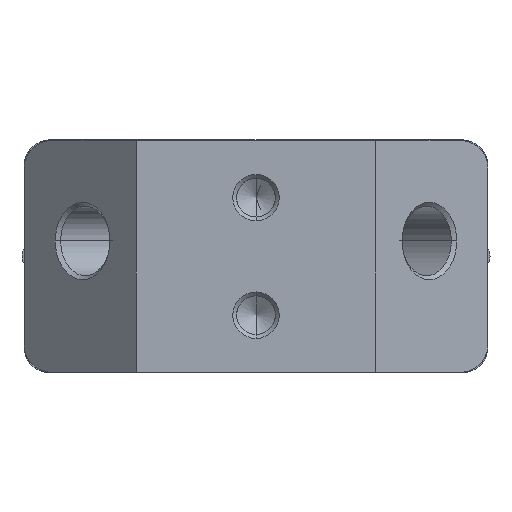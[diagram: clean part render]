
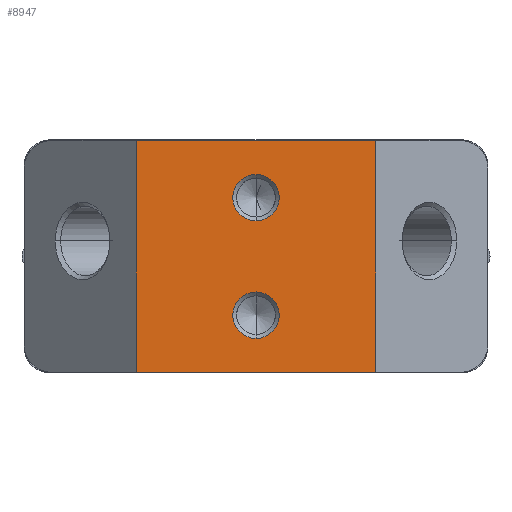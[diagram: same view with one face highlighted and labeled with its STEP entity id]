
A CAD part, front view. The second image highlights one B-rep face of the part: STEP entity #8947.
In plain terms, the highlighted planar face has unit normal (0, -1, 0).
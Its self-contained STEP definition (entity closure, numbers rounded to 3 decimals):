
#135 = ORIENTED_EDGE ( 'NONE', *, *, #1587, .F. ) ;
#357 = EDGE_LOOP ( 'NONE', ( #13958, #6054 ) ) ;
#450 = CARTESIAN_POINT ( 'NONE',  ( 0., -27., -3.8 ) ) ;
#673 = EDGE_CURVE ( 'NONE', #5515, #11195, #14763, .T. ) ;
#685 = EDGE_CURVE ( 'NONE', #18572, #9311, #5127, .T. ) ;
#1527 = CARTESIAN_POINT ( 'NONE',  ( 0., -27., -2.3 ) ) ;
#1540 = CARTESIAN_POINT ( 'NONE',  ( -7.75, -27., 7.5 ) ) ;
#1587 = EDGE_CURVE ( 'NONE', #18136, #18364, #15812, .T. ) ;
#1737 = DIRECTION ( 'NONE',  ( 0., 1., 0. ) ) ;
#2124 = CARTESIAN_POINT ( 'NONE',  ( -7.75, -27., -7.5 ) ) ;
#2256 = CARTESIAN_POINT ( 'NONE',  ( 7.75, -27., -7.5 ) ) ;
#2333 = EDGE_CURVE ( 'NONE', #11195, #18136, #6753, .T. ) ;
#2944 = VECTOR ( 'NONE', #14338, 1000. ) ;
#3422 = DIRECTION ( 'NONE',  ( 0., 0., -1. ) ) ;
#3445 = CARTESIAN_POINT ( 'NONE',  ( 7.75, -27., -7.5 ) ) ;
#3662 = CARTESIAN_POINT ( 'NONE',  ( 7.75, -27., 7.5 ) ) ;
#3800 = DIRECTION ( 'NONE',  ( 0., -1., 0. ) ) ;
#4380 = DIRECTION ( 'NONE',  ( 0., 0., 1. ) ) ;
#4898 = FACE_BOUND ( 'NONE', #357, .T. ) ;
#4923 = ORIENTED_EDGE ( 'NONE', *, *, #673, .F. ) ;
#5038 = DIRECTION ( 'NONE',  ( 0., 0., -1. ) ) ;
#5127 = CIRCLE ( 'NONE', #16190, 1.5 ) ;
#5225 = CARTESIAN_POINT ( 'NONE',  ( 0., -27., -3.8 ) ) ;
#5372 = AXIS2_PLACEMENT_3D ( 'NONE', #2124, #3800, #11445 ) ;
#5440 = AXIS2_PLACEMENT_3D ( 'NONE', #450, #8101, #5038 ) ;
#5515 = VERTEX_POINT ( 'NONE', #18184 ) ;
#5778 = CIRCLE ( 'NONE', #5440, 1.5 ) ;
#6054 = ORIENTED_EDGE ( 'NONE', *, *, #685, .T. ) ;
#6249 = VECTOR ( 'NONE', #12995, 1000. ) ;
#6753 = LINE ( 'NONE', #8440, #6249 ) ;
#6945 = CARTESIAN_POINT ( 'NONE',  ( 0., -27., 2.3 ) ) ;
#7187 = DIRECTION ( 'NONE',  ( 1., 0., 0. ) ) ;
#7623 = EDGE_LOOP ( 'NONE', ( #4923, #11979, #135, #11545 ) ) ;
#8101 = DIRECTION ( 'NONE',  ( 0., 1., 0. ) ) ;
#8303 = CIRCLE ( 'NONE', #8629, 1.5 ) ;
#8440 = CARTESIAN_POINT ( 'NONE',  ( 0., -27., 7.5 ) ) ;
#8629 = AXIS2_PLACEMENT_3D ( 'NONE', #5225, #19070, #17389 ) ;
#8752 = EDGE_CURVE ( 'NONE', #5515, #18364, #17963, .T. ) ;
#8836 = CARTESIAN_POINT ( 'NONE',  ( -7.75, -27., -7.5 ) ) ;
#8947 = ADVANCED_FACE ( 'NONE', ( #13911, #4898, #14108 ), #10950, .T. ) ;
#9311 = VERTEX_POINT ( 'NONE', #6945 ) ;
#10950 = PLANE ( 'NONE',  #5372 ) ;
#11195 = VERTEX_POINT ( 'NONE', #1540 ) ;
#11445 = DIRECTION ( 'NONE',  ( 0., 0., -1. ) ) ;
#11545 = ORIENTED_EDGE ( 'NONE', *, *, #2333, .F. ) ;
#11747 = CIRCLE ( 'NONE', #13001, 1.5 ) ;
#11818 = CARTESIAN_POINT ( 'NONE',  ( 0., -27., 3.8 ) ) ;
#11914 = DIRECTION ( 'NONE',  ( 0., 0., -1. ) ) ;
#11979 = ORIENTED_EDGE ( 'NONE', *, *, #8752, .T. ) ;
#12995 = DIRECTION ( 'NONE',  ( 1., 0., 0. ) ) ;
#13001 = AXIS2_PLACEMENT_3D ( 'NONE', #14124, #1737, #3422 ) ;
#13353 = VECTOR ( 'NONE', #4380, 1000. ) ;
#13366 = EDGE_LOOP ( 'NONE', ( #15251, #13933 ) ) ;
#13631 = CARTESIAN_POINT ( 'NONE',  ( 0., -27., -7.5 ) ) ;
#13911 = FACE_BOUND ( 'NONE', #13366, .T. ) ;
#13933 = ORIENTED_EDGE ( 'NONE', *, *, #18452, .T. ) ;
#13958 = ORIENTED_EDGE ( 'NONE', *, *, #16444, .T. ) ;
#14108 = FACE_OUTER_BOUND ( 'NONE', #7623, .T. ) ;
#14124 = CARTESIAN_POINT ( 'NONE',  ( 0., -27., 3.8 ) ) ;
#14338 = DIRECTION ( 'NONE',  ( 0., 0., -1. ) ) ;
#14763 = LINE ( 'NONE', #8836, #13353 ) ;
#15251 = ORIENTED_EDGE ( 'NONE', *, *, #16064, .T. ) ;
#15812 = LINE ( 'NONE', #2256, #2944 ) ;
#16064 = EDGE_CURVE ( 'NONE', #17353, #16647, #5778, .T. ) ;
#16190 = AXIS2_PLACEMENT_3D ( 'NONE', #11818, #18115, #11914 ) ;
#16444 = EDGE_CURVE ( 'NONE', #9311, #18572, #11747, .T. ) ;
#16647 = VERTEX_POINT ( 'NONE', #1527 ) ;
#17353 = VERTEX_POINT ( 'NONE', #19283 ) ;
#17374 = VECTOR ( 'NONE', #7187, 1000. ) ;
#17389 = DIRECTION ( 'NONE',  ( 0., 0., -1. ) ) ;
#17678 = CARTESIAN_POINT ( 'NONE',  ( 0., -27., 5.3 ) ) ;
#17963 = LINE ( 'NONE', #13631, #17374 ) ;
#18115 = DIRECTION ( 'NONE',  ( 0., 1., 0. ) ) ;
#18136 = VERTEX_POINT ( 'NONE', #3662 ) ;
#18184 = CARTESIAN_POINT ( 'NONE',  ( -7.75, -27., -7.5 ) ) ;
#18364 = VERTEX_POINT ( 'NONE', #3445 ) ;
#18452 = EDGE_CURVE ( 'NONE', #16647, #17353, #8303, .T. ) ;
#18572 = VERTEX_POINT ( 'NONE', #17678 ) ;
#19070 = DIRECTION ( 'NONE',  ( 0., 1., 0. ) ) ;
#19283 = CARTESIAN_POINT ( 'NONE',  ( 0., -27., -5.3 ) ) ;
